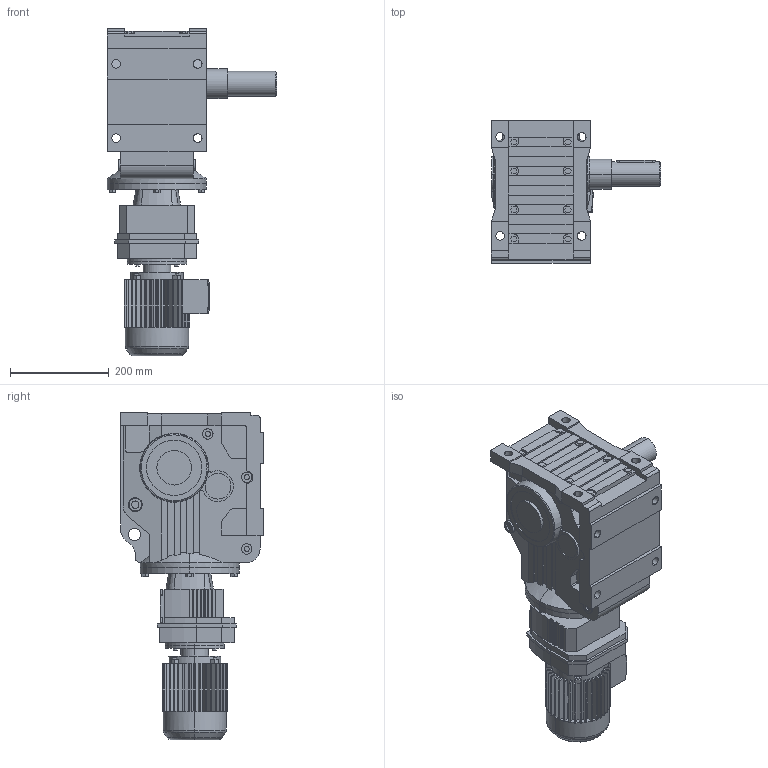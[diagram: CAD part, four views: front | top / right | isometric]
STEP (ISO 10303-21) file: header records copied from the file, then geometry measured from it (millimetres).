
FILE_DESCRIPTION(('Open CASCADE Model'),'2;1');
FILE_NAME('Open CASCADE Shape Model','2021-07-24T16:16:18',('Author'),( 'Open CASCADE'),'Open CASCADE STEP processor 6.3','Open CASCADE 6.3' ,'Unknown');
FILE_SCHEMA(('AUTOMOTIVE_DESIGN_CC2 { 1 2 10303 214 -1 1 5 4 }'));
Length unit declared in the file: millimetre
Products named in the file (5): 1_K77R37DR63-A; K37‵157_77.step; 萇儂_120-DR63-191-246-132-105.step; R_77_37.step; す瑩妗陑粣K_77.step
Assembly tree (4 placements, depth 2):
  1_K77R37DR63-A
    K37‵157_77.step
    萇儂_120-DR63-191-246-132-105.step
    R_77_37.step
    す瑩妗陑粣K_77.step
Bounding box: 342 x 288 x 662 mm (x, y, z)
Volume: 18181423.3 mm3; surface area: 964546 mm2
Topology: 4 solids, 4 shells, 1085 faces, 2876 edges, 1876 vertices
Faces by surface type: plane 773, cylinder 279, cone 25, torus 8
Entity records: 74451 total; most frequent: CARTESIAN_POINT 19376, DIRECTION 9576, ORIENTED_EDGE 5748, PCURVE 5748, DEFINITIONAL_REPRESENTATION 5748, LINE 5485, VECTOR 5485, EDGE_CURVE 2874
